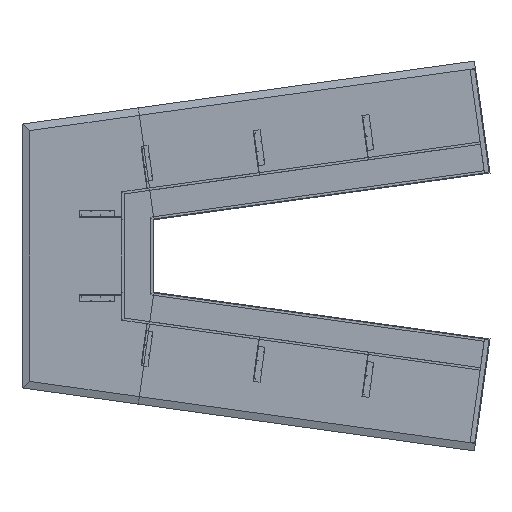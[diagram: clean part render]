
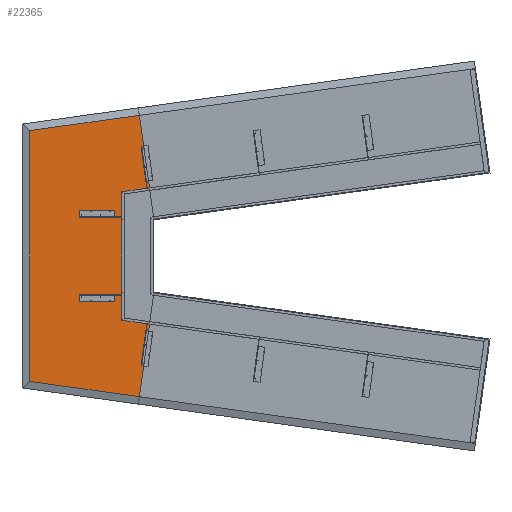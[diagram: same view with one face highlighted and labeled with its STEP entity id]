
A CAD part, front view. The second image highlights one B-rep face of the part: STEP entity #22365.
In plain terms, the highlighted planar face has unit normal (0, -1, 0).
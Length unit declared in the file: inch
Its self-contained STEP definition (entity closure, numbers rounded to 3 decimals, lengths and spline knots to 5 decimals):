
#2831=FACE_BOUND('',#4822,.T.);
#2983=PLANE('',#24673);
#3739=FACE_OUTER_BOUND('',#4821,.T.);
#4821=EDGE_LOOP('',(#15559,#15560,#15561,#15562,#15563,#15564));
#4822=EDGE_LOOP('',(#15565,#15566,#15567,#15568));
#6023=LINE('',#34195,#8186);
#6027=LINE('',#34204,#8190);
#6032=LINE('',#34214,#8195);
#6037=LINE('',#34224,#8200);
#6040=LINE('',#34231,#8203);
#6044=LINE('',#34239,#8207);
#6047=LINE('',#34245,#8210);
#6050=LINE('',#34250,#8213);
#6054=LINE('',#34257,#8217);
#6055=LINE('',#34259,#8218);
#8186=VECTOR('',#27130,0.3937);
#8190=VECTOR('',#27138,0.3937);
#8195=VECTOR('',#27147,0.3937);
#8200=VECTOR('',#27156,0.3937);
#8203=VECTOR('',#27161,0.3937);
#8207=VECTOR('',#27167,0.3937);
#8210=VECTOR('',#27172,0.3937);
#8213=VECTOR('',#27177,0.3937);
#8217=VECTOR('',#27183,0.3937);
#8218=VECTOR('',#27186,0.3937);
#10855=VERTEX_POINT('',#34188);
#10858=VERTEX_POINT('',#34193);
#10861=VERTEX_POINT('',#34203);
#10864=VERTEX_POINT('',#34213);
#10867=VERTEX_POINT('',#34223);
#10869=VERTEX_POINT('',#34229);
#10870=VERTEX_POINT('',#34230);
#10873=VERTEX_POINT('',#34238);
#10875=VERTEX_POINT('',#34244);
#10878=VERTEX_POINT('',#34255);
#12692=EDGE_CURVE('',#10858,#10855,#6023,.T.);
#12696=EDGE_CURVE('',#10855,#10861,#6027,.T.);
#12701=EDGE_CURVE('',#10861,#10864,#6032,.T.);
#12706=EDGE_CURVE('',#10864,#10867,#6037,.T.);
#12709=EDGE_CURVE('',#10869,#10870,#6040,.T.);
#12713=EDGE_CURVE('',#10870,#10873,#6044,.T.);
#12716=EDGE_CURVE('',#10873,#10875,#6047,.T.);
#12719=EDGE_CURVE('',#10875,#10869,#6050,.T.);
#12723=EDGE_CURVE('',#10878,#10858,#6054,.T.);
#12724=EDGE_CURVE('',#10867,#10878,#6055,.T.);
#15559=ORIENTED_EDGE('',*,*,#12692,.F.);
#15560=ORIENTED_EDGE('',*,*,#12723,.F.);
#15561=ORIENTED_EDGE('',*,*,#12724,.F.);
#15562=ORIENTED_EDGE('',*,*,#12706,.F.);
#15563=ORIENTED_EDGE('',*,*,#12701,.F.);
#15564=ORIENTED_EDGE('',*,*,#12696,.F.);
#15565=ORIENTED_EDGE('',*,*,#12716,.T.);
#15566=ORIENTED_EDGE('',*,*,#12719,.T.);
#15567=ORIENTED_EDGE('',*,*,#12709,.T.);
#15568=ORIENTED_EDGE('',*,*,#12713,.T.);
#22365=ADVANCED_FACE('',(#3739,#2831),#2983,.F.);
#24673=AXIS2_PLACEMENT_3D('',#34262,#27190,#27191);
#27130=DIRECTION('',(-0.99,0.,0.138));
#27138=DIRECTION('',(0.,0.,1.));
#27147=DIRECTION('',(0.99,0.,0.138));
#27156=DIRECTION('',(0.138,0.,-0.99));
#27161=DIRECTION('',(-1.,0.,0.));
#27167=DIRECTION('',(0.,0.,1.));
#27172=DIRECTION('',(1.,0.,0.));
#27177=DIRECTION('',(0.,0.,-1.));
#27183=DIRECTION('',(-0.138,0.,-0.99));
#27186=DIRECTION('',(0.,0.,-1.));
#27190=DIRECTION('center_axis',(0.,1.,0.));
#27191=DIRECTION('ref_axis',(0.,0.,1.));
#34188=CARTESIAN_POINT('',(2.40404,0.,-81.90764));
#34193=CARTESIAN_POINT('',(37.36463,0.,-86.77788));
#34195=CARTESIAN_POINT('',(26.27853,0.,-85.23351));
#34203=CARTESIAN_POINT('',(2.40404,0.,-2.09236));
#34204=CARTESIAN_POINT('',(2.40404,0.,-63.));
#34213=CARTESIAN_POINT('',(37.36463,0.,2.77788));
#34214=CARTESIAN_POINT('',(7.76206,0.,-1.34595));
#34223=CARTESIAN_POINT('',(42.,0.,-30.49676));
#34224=CARTESIAN_POINT('',(37.03293,0.,5.15893));
#34229=CARTESIAN_POINT('',(39.75,0.,-45.9375));
#34230=CARTESIAN_POINT('',(33.75,0.,-45.9375));
#34231=CARTESIAN_POINT('',(27.375,0.,-45.9375));
#34238=CARTESIAN_POINT('',(33.75,0.,-38.0625));
#34239=CARTESIAN_POINT('',(33.75,0.,-40.03125));
#34244=CARTESIAN_POINT('',(39.75,0.,-38.0625));
#34245=CARTESIAN_POINT('',(30.375,0.,-38.0625));
#34250=CARTESIAN_POINT('',(39.75,0.,-43.96875));
#34255=CARTESIAN_POINT('',(42.,0.,-53.50324));
#34257=CARTESIAN_POINT('',(42.,0.,-53.50324));
#34259=CARTESIAN_POINT('',(42.,0.,-30.49676));
#34262=CARTESIAN_POINT('Origin',(21.,0.,-42.));
